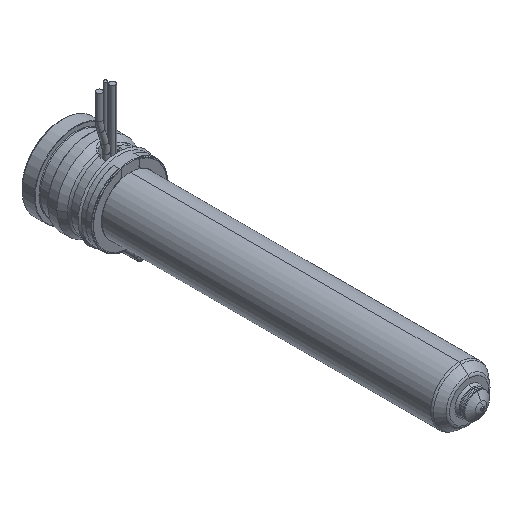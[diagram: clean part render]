
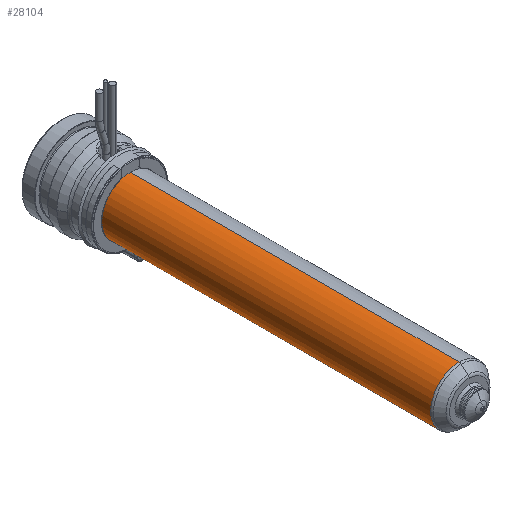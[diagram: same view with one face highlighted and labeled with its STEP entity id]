
A CAD part, isometric view. The second image highlights one B-rep face of the part: STEP entity #28104.
In plain terms, the highlighted cylindrical face has radius 9 mm (diameter 18 mm), a partial arc.
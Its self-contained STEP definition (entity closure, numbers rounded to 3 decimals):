
#27493=CARTESIAN_POINT('',(0.,-125.836,0.));
#27494=DIRECTION('',(0.,-1.,0.));
#27495=DIRECTION('',(0.,0.,1.));
#27496=AXIS2_PLACEMENT_3D('',#27493,#27494,#27495);
#27501=CARTESIAN_POINT('',(0.,-22.,0.));
#27502=DIRECTION('',(0.,-1.,0.));
#27503=DIRECTION('',(0.,0.,1.));
#27504=AXIS2_PLACEMENT_3D('',#27501,#27502,#27503);
#27509=DIRECTION('',(0.,-1.,0.));
#27510=VECTOR('',#27509,103.836);
#27511=CARTESIAN_POINT('',(0.,-22.,9.));
#27512=LINE('',#27511,#27510);
#27524=DIRECTION('',(0.,-1.,0.));
#27525=VECTOR('',#27524,103.836);
#27526=CARTESIAN_POINT('',(0.,-22.,-9.));
#27527=LINE('',#27526,#27525);
#27721=CARTESIAN_POINT('',(0.,-22.,9.));
#27722=CARTESIAN_POINT('',(0.,-125.836,9.));
#27723=VERTEX_POINT('',#27721);
#27724=VERTEX_POINT('',#27722);
#27747=CARTESIAN_POINT('',(0.,-22.,-9.));
#27748=CARTESIAN_POINT('',(0.,-125.836,-9.));
#27749=VERTEX_POINT('',#27747);
#27750=VERTEX_POINT('',#27748);
#28090=CARTESIAN_POINT('',(0.,-12.2,0.));
#28091=DIRECTION('',(0.,-1.,0.));
#28092=DIRECTION('',(0.,0.,1.));
#28093=AXIS2_PLACEMENT_3D('',#28090,#28091,#28092);
#28094=CYLINDRICAL_SURFACE('',#28093,9.);
#28096=ORIENTED_EDGE('',*,*,#28095,.T.);
#28097=ORIENTED_EDGE('',*,*,#28085,.T.);
#28099=ORIENTED_EDGE('',*,*,#28098,.F.);
#28101=ORIENTED_EDGE('',*,*,#28100,.F.);
#28102=EDGE_LOOP('',(#28096,#28097,#28099,#28101));
#28103=FACE_OUTER_BOUND('',#28102,.F.);
#28104=ADVANCED_FACE('',(#28103),#28094,.T.);
#27497=CIRCLE('',#27496,9.);
#27505=CIRCLE('',#27504,9.);
#28085=EDGE_CURVE('',#27724,#27750,#27497,.T.);
#28095=EDGE_CURVE('',#27723,#27724,#27512,.T.);
#28098=EDGE_CURVE('',#27749,#27750,#27527,.T.);
#28100=EDGE_CURVE('',#27723,#27749,#27505,.T.);
